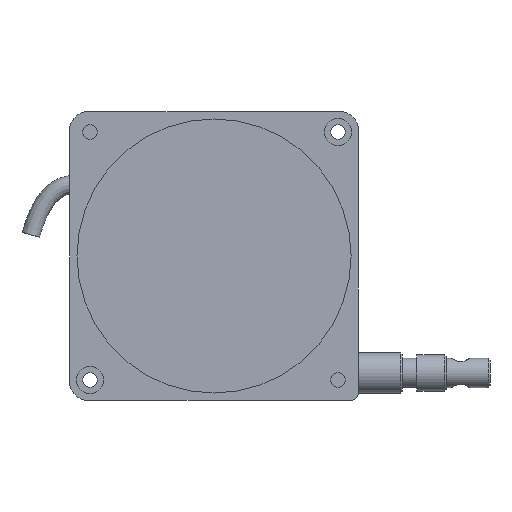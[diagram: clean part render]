
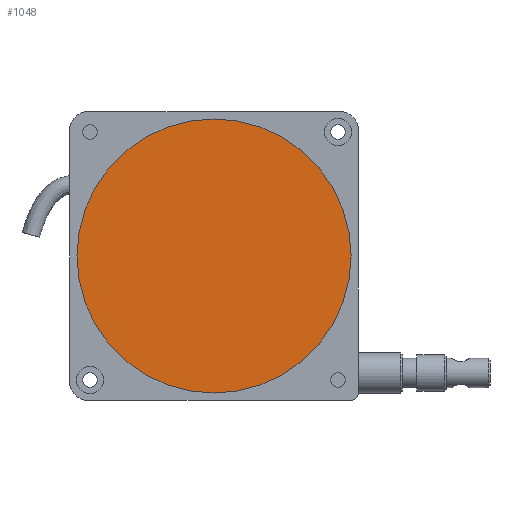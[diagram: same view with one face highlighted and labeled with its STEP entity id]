
A CAD part, front view. The second image highlights one B-rep face of the part: STEP entity #1048.
In plain terms, the highlighted planar face has unit normal (0, -1, 0).
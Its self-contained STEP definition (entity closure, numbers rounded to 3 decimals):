
#709=FACE_OUTER_BOUND('',#1714,.T.);
#1048=ADVANCED_FACE('',(#709),#1398,.F.);
#1398=PLANE('',#7203);
#1714=EDGE_LOOP('',(#2391,#2392));
#2391=ORIENTED_EDGE('',*,*,#5069,.T.);
#2392=ORIENTED_EDGE('',*,*,#5070,.T.);
#4316=VERTEX_POINT('',#10671);
#4317=VERTEX_POINT('',#10672);
#5069=EDGE_CURVE('',#4316,#4317,#6616,.T.);
#5070=EDGE_CURVE('',#4317,#4316,#6617,.T.);
#6616=CIRCLE('',#7201,37.5);
#6617=CIRCLE('',#7202,37.5);
#7201=AXIS2_PLACEMENT_3D('',#10670,#8297,#8298);
#7202=AXIS2_PLACEMENT_3D('',#10673,#8299,#8300);
#7203=AXIS2_PLACEMENT_3D('',#10674,#8301,#8302);
#8297=DIRECTION('',(0.,-1.,0.));
#8298=DIRECTION('',(0.,0.,-1.));
#8299=DIRECTION('',(0.,-1.,0.));
#8300=DIRECTION('',(0.,0.,1.));
#8301=DIRECTION('',(0.,1.,0.));
#8302=DIRECTION('',(-1.,0.,0.));
#10670=CARTESIAN_POINT('',(-170.54,102.137,62.111));
#10671=CARTESIAN_POINT('',(-170.54,102.137,24.611));
#10672=CARTESIAN_POINT('',(-170.54,102.137,99.611));
#10673=CARTESIAN_POINT('',(-170.54,102.137,62.111));
#10674=CARTESIAN_POINT('',(-170.54,102.137,62.111));
